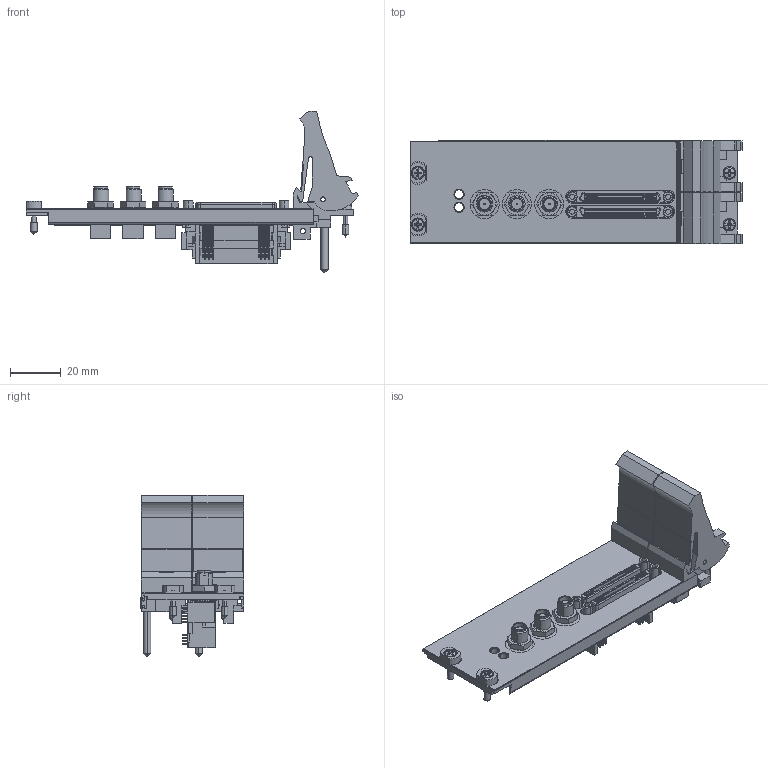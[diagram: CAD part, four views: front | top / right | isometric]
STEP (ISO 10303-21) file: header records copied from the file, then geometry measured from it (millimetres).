
FILE_DESCRIPTION((''),'2;1');
FILE_NAME('CU_PXIE-6555','2012-07-02T',('jjorden'),(''),'PRO/ENGINEER BY PARAMETRIC TECHNOLOGY CORPORATION, 2010230','PRO/ENGINEER BY PARAMETRIC TECHNOLOGY CORPORATION, 2010230','');
FILE_SCHEMA(('CONFIG_CONTROL_DESIGN'));
Products named in the file (1): CU_PXIE-6555
Bounding box: 130.5 x 40.61 x 63.53 mm (x, y, z)
Volume: 35775.8 mm3; surface area: 36517 mm2
Topology: 1 solids, 1 shells, 3372 faces, 9613 edges, 6234 vertices
Faces by surface type: plane 2634, cylinder 570, cone 90, torus 50, sphere 16, bspline 12
Entity records: 114869 total; most frequent: CARTESIAN_POINT 25645, ORIENTED_EDGE 19210, DIRECTION 17476, EDGE_CURVE 9605, VECTOR 7916, LINE 7916, VERTEX_POINT 6234, AXIS2_PLACEMENT_3D 4780
